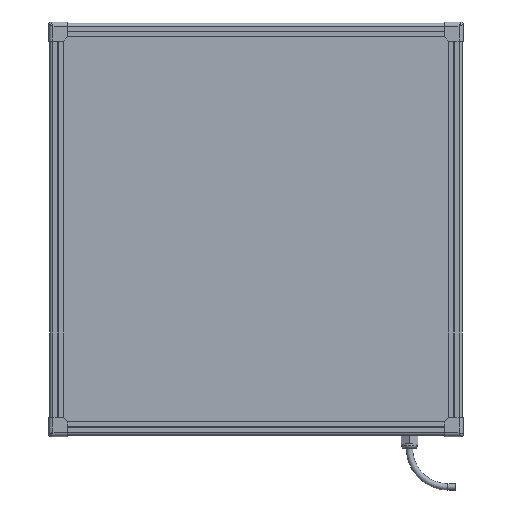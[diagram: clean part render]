
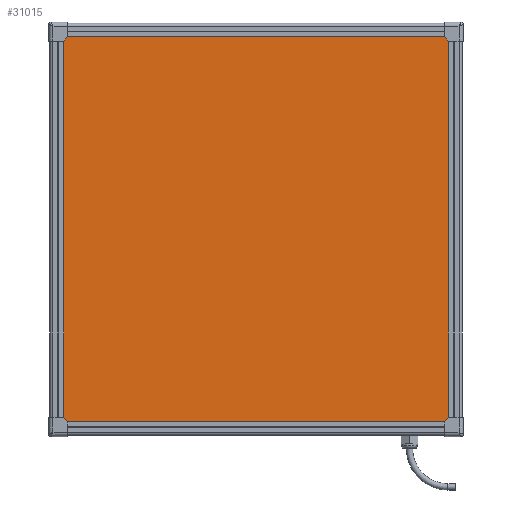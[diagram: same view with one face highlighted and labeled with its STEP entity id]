
A CAD part, front view. The second image highlights one B-rep face of the part: STEP entity #31015.
In plain terms, the highlighted planar face has unit normal (0, -1, 0).
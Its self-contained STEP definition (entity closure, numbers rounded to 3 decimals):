
#1743 = EDGE_CURVE ( 'NONE', #11346, #9826, #44205, .T. ) ;
#1744 = DIRECTION ( 'NONE',  ( 1., 0., 0. ) ) ;
#2368 = CARTESIAN_POINT ( 'NONE',  ( -262.25, -17.3, 262.25 ) ) ;
#3315 = CARTESIAN_POINT ( 'NONE',  ( 262.25, -17.3, -262.25 ) ) ;
#4389 = ORIENTED_EDGE ( 'NONE', *, *, #27720, .F. ) ;
#5439 = LINE ( 'NONE', #16357, #24363 ) ;
#7973 = DIRECTION ( 'NONE',  ( 0., 0., -1. ) ) ;
#8288 = EDGE_CURVE ( 'NONE', #33443, #11346, #13420, .T. ) ;
#9826 = VERTEX_POINT ( 'NONE', #3315 ) ;
#10354 = EDGE_CURVE ( 'NONE', #9826, #20479, #5439, .T. ) ;
#11346 = VERTEX_POINT ( 'NONE', #12455 ) ;
#12455 = CARTESIAN_POINT ( 'NONE',  ( 262.25, -17.3, 262.25 ) ) ;
#13027 = PLANE ( 'NONE',  #35297 ) ;
#13420 = LINE ( 'NONE', #28752, #27460 ) ;
#16357 = CARTESIAN_POINT ( 'NONE',  ( -262.25, -17.3, -262.25 ) ) ;
#17402 = FACE_OUTER_BOUND ( 'NONE', #45723, .T. ) ;
#19851 = CARTESIAN_POINT ( 'NONE',  ( -262.25, -17.3, -262.25 ) ) ;
#20479 = VERTEX_POINT ( 'NONE', #19851 ) ;
#24363 = VECTOR ( 'NONE', #52424, 1000. ) ;
#26198 = CARTESIAN_POINT ( 'NONE',  ( 0., -17.3, 0. ) ) ;
#26397 = DIRECTION ( 'NONE',  ( 0., -1., 0. ) ) ;
#27460 = VECTOR ( 'NONE', #1744, 1000. ) ;
#27720 = EDGE_CURVE ( 'NONE', #20479, #33443, #45369, .T. ) ;
#28752 = CARTESIAN_POINT ( 'NONE',  ( -262.25, -17.3, 262.25 ) ) ;
#31015 = ADVANCED_FACE ( 'NONE', ( #17402 ), #13027, .T. ) ;
#31876 = CARTESIAN_POINT ( 'NONE',  ( -262.25, -17.3, 262.25 ) ) ;
#33443 = VERTEX_POINT ( 'NONE', #31876 ) ;
#35297 = AXIS2_PLACEMENT_3D ( 'NONE', #26198, #26397, #7973 ) ;
#37055 = DIRECTION ( 'NONE',  ( 0., 0., -1. ) ) ;
#39252 = ORIENTED_EDGE ( 'NONE', *, *, #10354, .F. ) ;
#40729 = VECTOR ( 'NONE', #37055, 1000. ) ;
#42645 = DIRECTION ( 'NONE',  ( 0., 0., 1. ) ) ;
#44205 = LINE ( 'NONE', #44670, #40729 ) ;
#44670 = CARTESIAN_POINT ( 'NONE',  ( 262.25, -17.3, 262.25 ) ) ;
#45369 = LINE ( 'NONE', #2368, #52989 ) ;
#45723 = EDGE_LOOP ( 'NONE', ( #53256, #50558, #4389, #39252 ) ) ;
#50558 = ORIENTED_EDGE ( 'NONE', *, *, #8288, .F. ) ;
#52424 = DIRECTION ( 'NONE',  ( -1., 0., 0. ) ) ;
#52989 = VECTOR ( 'NONE', #42645, 1000. ) ;
#53256 = ORIENTED_EDGE ( 'NONE', *, *, #1743, .F. ) ;
